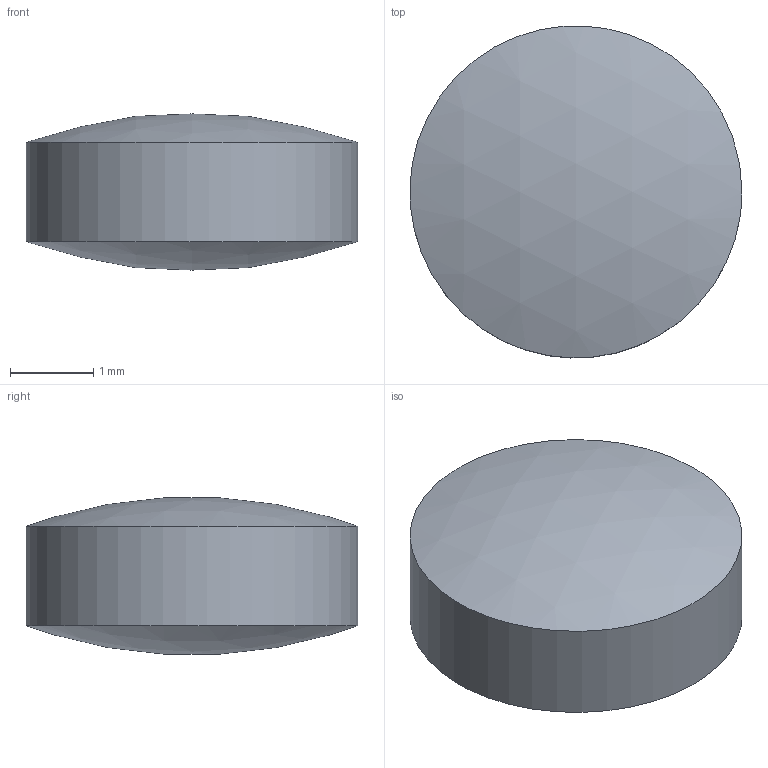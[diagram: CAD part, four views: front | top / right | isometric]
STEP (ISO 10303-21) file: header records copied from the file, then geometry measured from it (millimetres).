
FILE_DESCRIPTION ((), '1');
FILE_NAME ('C:\Users\r.sato\Desktop\', '2016-12-19T19:28:54', ('Unknown'), ('Unknown'), 'HarmonyWare STEP v1.9.13', 'HarmonyWare Translators', '');
FILE_SCHEMA (('CONFIG_CONTROL_DESIGN'));
Length unit declared in the file: millimetre
Products named in the file (1): NONE
Bounding box: 4 x 4 x 1.88 mm (x, y, z)
Volume: 19.5 mm3; surface area: 40.9 mm2
Topology: 1 solids, 1 shells, 3 faces, 3 edges, 2 vertices
Faces by surface type: sphere 2, cylinder 1
Full cylindrical faces by diameter (mm): 4 x1
Entity records: 151 total; most frequent: CARTESIAN_POINT 25, PERSON 8, ORGANIZATION 8, PERSON_AND_ORGANIZATION 8, ORIENTED_EDGE 6, DIRECTION 6, PERSON_AND_ORGANIZATION_ROLE 5, CC_DESIGN_PERSON_AND_ORGANIZATION_ASSIGNMENT 5
